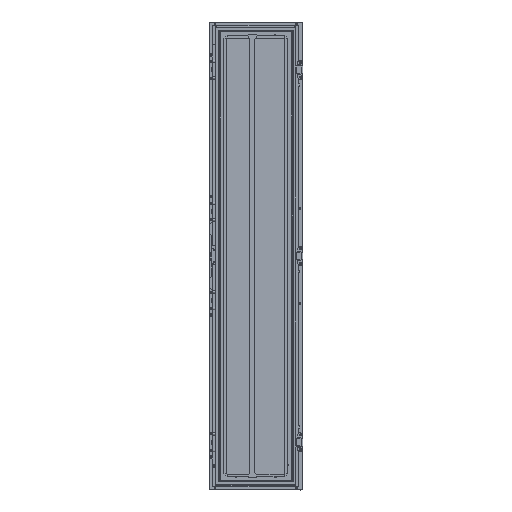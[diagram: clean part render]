
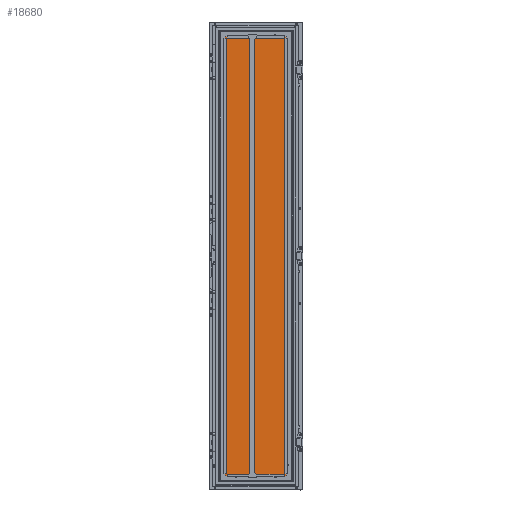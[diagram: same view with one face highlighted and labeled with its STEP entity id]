
A CAD part, top view. The second image highlights one B-rep face of the part: STEP entity #18680.
In plain terms, the highlighted planar face has unit normal (0, 0, 1).
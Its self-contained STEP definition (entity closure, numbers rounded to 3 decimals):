
#6264=DIRECTION('',(0.,1.,0.));
#6265=VECTOR('',#6264,6.304);
#6266=CARTESIAN_POINT('',(75.25,1909.69,1.25));
#6267=LINE('',#6266,#6265);
#6272=CARTESIAN_POINT('',(317.35,1909.672,1.25));
#6299=DIRECTION('',(0.,-1.,0.));
#6300=VECTOR('',#6299,6.296);
#6301=CARTESIAN_POINT('',(317.35,1915.968,1.25));
#6302=LINE('',#6301,#6300);
#6311=DIRECTION('',(-1.,0.,0.));
#6312=VECTOR('',#6311,242.1);
#6313=CARTESIAN_POINT('',(317.35,1909.672,1.25));
#6314=LINE('',#6313,#6312);
#6403=DIRECTION('',(0.,-1.,0.));
#6404=VECTOR('',#6403,1832.);
#6405=CARTESIAN_POINT('',(192.3,1904.2,1.25));
#6406=LINE('',#6405,#6404);
#6411=DIRECTION('',(-1.,0.,0.));
#6412=VECTOR('',#6411,20.);
#6413=CARTESIAN_POINT('',(192.3,72.2,1.25));
#6414=LINE('',#6413,#6412);
#6439=DIRECTION('',(1.,0.,0.));
#6440=VECTOR('',#6439,242.1);
#6441=CARTESIAN_POINT('',(75.25,65.994,1.25));
#6442=LINE('',#6441,#6440);
#6475=DIRECTION('',(0.,1.,0.));
#6476=VECTOR('',#6475,1832.);
#6477=CARTESIAN_POINT('',(172.3,72.2,1.25));
#6478=LINE('',#6477,#6476);
#6483=DIRECTION('',(1.,0.,0.));
#6484=VECTOR('',#6483,20.);
#6485=CARTESIAN_POINT('',(172.3,1904.2,1.25));
#6486=LINE('',#6485,#6484);
#6487=DIRECTION('',(-1.,0.,0.));
#6488=VECTOR('',#6487,8.3);
#6489=CARTESIAN_POINT('',(75.25,1915.994,1.25));
#6490=LINE('',#6489,#6488);
#6495=DIRECTION('',(0.,-1.,0.));
#6496=VECTOR('',#6495,7.3);
#6497=CARTESIAN_POINT('',(66.95,1915.994,1.25));
#6498=LINE('',#6497,#6496);
#6507=DIRECTION('',(1.,0.,0.));
#6508=VECTOR('',#6507,6.3);
#6509=CARTESIAN_POINT('',(66.95,1908.694,1.25));
#6510=LINE('',#6509,#6508);
#6561=DIRECTION('',(-1.,0.,0.));
#6562=VECTOR('',#6561,6.3);
#6563=CARTESIAN_POINT('',(73.25,66.994,1.25));
#6564=LINE('',#6563,#6562);
#6581=DIRECTION('',(0.,-1.,0.));
#6582=VECTOR('',#6581,1841.7);
#6583=CARTESIAN_POINT('',(73.25,1908.694,1.25));
#6584=LINE('',#6583,#6582);
#6585=DIRECTION('',(0.,-1.,0.));
#6586=VECTOR('',#6585,7.3);
#6587=CARTESIAN_POINT('',(66.95,66.994,1.25));
#6588=LINE('',#6587,#6586);
#6593=DIRECTION('',(1.,0.,0.));
#6594=VECTOR('',#6593,8.3);
#6595=CARTESIAN_POINT('',(66.95,59.694,1.25));
#6596=LINE('',#6595,#6594);
#6609=DIRECTION('',(0.,1.,0.));
#6610=VECTOR('',#6609,6.301);
#6611=CARTESIAN_POINT('',(75.25,59.694,1.25));
#6612=LINE('',#6611,#6610);
#6745=DIRECTION('',(0.,-1.,0.));
#6746=VECTOR('',#6745,6.319);
#6747=CARTESIAN_POINT('',(317.35,65.994,1.25));
#6748=LINE('',#6747,#6746);
#6765=DIRECTION('',(1.,-0.009,0.));
#6766=VECTOR('',#6765,8.3);
#6767=CARTESIAN_POINT('',(317.35,59.676,1.25));
#6768=LINE('',#6767,#6766);
#6773=DIRECTION('',(0.,1.,0.));
#6774=VECTOR('',#6773,7.296);
#6775=CARTESIAN_POINT('',(325.65,59.604,1.25));
#6776=LINE('',#6775,#6774);
#6785=DIRECTION('',(-1.,0.009,0.));
#6786=VECTOR('',#6785,6.3);
#6787=CARTESIAN_POINT('',(325.65,66.9,1.25));
#6788=LINE('',#6787,#6786);
#6827=DIRECTION('',(0.,1.,0.));
#6828=VECTOR('',#6827,1841.713);
#6829=CARTESIAN_POINT('',(319.35,66.954,1.25));
#6830=LINE('',#6829,#6828);
#6838=DIRECTION('',(1.,0.,0.));
#6839=VECTOR('',#6838,6.3);
#6840=CARTESIAN_POINT('',(319.35,1908.668,1.25));
#6841=LINE('',#6840,#6839);
#6870=DIRECTION('',(0.,1.,0.));
#6871=VECTOR('',#6870,7.3);
#6872=CARTESIAN_POINT('',(325.65,1908.667,1.25));
#6873=LINE('',#6872,#6871);
#6878=DIRECTION('',(-1.,0.,0.));
#6879=VECTOR('',#6878,8.3);
#6880=CARTESIAN_POINT('',(325.65,1915.967,1.25));
#6881=LINE('',#6880,#6879);
#9590=CARTESIAN_POINT('',(75.25,1909.69,1.25));
#9591=VERTEX_POINT('',#9590);
#9592=CARTESIAN_POINT('',(75.25,1915.994,1.25));
#9593=VERTEX_POINT('',#9592);
#9596=VERTEX_POINT('',#6272);
#9602=CARTESIAN_POINT('',(317.35,1915.968,1.25));
#9603=VERTEX_POINT('',#9602);
#9641=CARTESIAN_POINT('',(192.3,72.2,1.25));
#9643=VERTEX_POINT('',#9641);
#9646=CARTESIAN_POINT('',(192.3,1904.2,1.25));
#9647=VERTEX_POINT('',#9646);
#9650=CARTESIAN_POINT('',(172.3,72.2,1.25));
#9651=VERTEX_POINT('',#9650);
#9662=CARTESIAN_POINT('',(75.25,65.994,1.25));
#9663=VERTEX_POINT('',#9662);
#9664=CARTESIAN_POINT('',(317.35,65.994,1.25));
#9665=VERTEX_POINT('',#9664);
#9680=CARTESIAN_POINT('',(172.3,1904.2,1.25));
#9681=VERTEX_POINT('',#9680);
#9684=CARTESIAN_POINT('',(66.95,1915.994,1.25));
#9685=VERTEX_POINT('',#9684);
#9686=CARTESIAN_POINT('',(325.65,1915.967,1.25));
#9687=VERTEX_POINT('',#9686);
#9688=CARTESIAN_POINT('',(325.65,1908.667,1.25));
#9689=VERTEX_POINT('',#9688);
#9690=CARTESIAN_POINT('',(319.35,1908.668,1.25));
#9691=VERTEX_POINT('',#9690);
#9692=CARTESIAN_POINT('',(319.35,66.954,1.25));
#9693=VERTEX_POINT('',#9692);
#9694=CARTESIAN_POINT('',(325.65,66.9,1.25));
#9695=VERTEX_POINT('',#9694);
#9696=CARTESIAN_POINT('',(325.65,59.604,1.25));
#9697=VERTEX_POINT('',#9696);
#9698=CARTESIAN_POINT('',(317.35,59.676,1.25));
#9699=VERTEX_POINT('',#9698);
#9700=CARTESIAN_POINT('',(75.25,59.694,1.25));
#9701=VERTEX_POINT('',#9700);
#9702=CARTESIAN_POINT('',(66.95,59.694,1.25));
#9703=VERTEX_POINT('',#9702);
#9704=CARTESIAN_POINT('',(66.95,66.994,1.25));
#9705=VERTEX_POINT('',#9704);
#9706=CARTESIAN_POINT('',(73.25,66.994,1.25));
#9707=VERTEX_POINT('',#9706);
#9708=CARTESIAN_POINT('',(73.25,1908.694,1.25));
#9709=VERTEX_POINT('',#9708);
#9710=CARTESIAN_POINT('',(66.95,1908.694,1.25));
#9711=VERTEX_POINT('',#9710);
#18631=CARTESIAN_POINT('',(0.,1977.,1.25));
#18632=DIRECTION('',(0.,0.,-1.));
#18633=DIRECTION('',(1.,0.,0.));
#18634=AXIS2_PLACEMENT_3D('',#18631,#18632,#18633);
#18635=PLANE('',#18634);
#18637=ORIENTED_EDGE('',*,*,#18636,.F.);
#18638=ORIENTED_EDGE('',*,*,#18277,.F.);
#18639=ORIENTED_EDGE('',*,*,#18330,.F.);
#18640=ORIENTED_EDGE('',*,*,#18315,.F.);
#18642=ORIENTED_EDGE('',*,*,#18641,.F.);
#18644=ORIENTED_EDGE('',*,*,#18643,.F.);
#18646=ORIENTED_EDGE('',*,*,#18645,.F.);
#18648=ORIENTED_EDGE('',*,*,#18647,.F.);
#18650=ORIENTED_EDGE('',*,*,#18649,.F.);
#18652=ORIENTED_EDGE('',*,*,#18651,.F.);
#18654=ORIENTED_EDGE('',*,*,#18653,.F.);
#18656=ORIENTED_EDGE('',*,*,#18655,.F.);
#18657=ORIENTED_EDGE('',*,*,#18544,.F.);
#18659=ORIENTED_EDGE('',*,*,#18658,.F.);
#18661=ORIENTED_EDGE('',*,*,#18660,.F.);
#18663=ORIENTED_EDGE('',*,*,#18662,.F.);
#18665=ORIENTED_EDGE('',*,*,#18664,.F.);
#18667=ORIENTED_EDGE('',*,*,#18666,.F.);
#18669=ORIENTED_EDGE('',*,*,#18668,.F.);
#18671=ORIENTED_EDGE('',*,*,#18670,.F.);
#18672=EDGE_LOOP('',(#18637,#18638,#18639,#18640,#18642,#18644,#18646,#18648,
#18650,#18652,#18654,#18656,#18657,#18659,#18661,#18663,#18665,#18667,#18669,
#18671));
#18673=FACE_OUTER_BOUND('',#18672,.F.);
#18674=ORIENTED_EDGE('',*,*,#18495,.F.);
#18675=ORIENTED_EDGE('',*,*,#18625,.F.);
#18676=ORIENTED_EDGE('',*,*,#18613,.F.);
#18677=ORIENTED_EDGE('',*,*,#18508,.F.);
#18678=EDGE_LOOP('',(#18674,#18675,#18676,#18677));
#18679=FACE_BOUND('',#18678,.F.);
#18277=EDGE_CURVE('',#9591,#9593,#6267,.T.);
#18315=EDGE_CURVE('',#9603,#9596,#6302,.T.);
#18330=EDGE_CURVE('',#9596,#9591,#6314,.T.);
#18495=EDGE_CURVE('',#9647,#9643,#6406,.T.);
#18508=EDGE_CURVE('',#9643,#9651,#6414,.T.);
#18544=EDGE_CURVE('',#9663,#9665,#6442,.T.);
#18613=EDGE_CURVE('',#9651,#9681,#6478,.T.);
#18625=EDGE_CURVE('',#9681,#9647,#6486,.T.);
#18636=EDGE_CURVE('',#9593,#9685,#6490,.T.);
#18641=EDGE_CURVE('',#9687,#9603,#6881,.T.);
#18643=EDGE_CURVE('',#9689,#9687,#6873,.T.);
#18645=EDGE_CURVE('',#9691,#9689,#6841,.T.);
#18647=EDGE_CURVE('',#9693,#9691,#6830,.T.);
#18649=EDGE_CURVE('',#9695,#9693,#6788,.T.);
#18651=EDGE_CURVE('',#9697,#9695,#6776,.T.);
#18653=EDGE_CURVE('',#9699,#9697,#6768,.T.);
#18655=EDGE_CURVE('',#9665,#9699,#6748,.T.);
#18658=EDGE_CURVE('',#9701,#9663,#6612,.T.);
#18660=EDGE_CURVE('',#9703,#9701,#6596,.T.);
#18662=EDGE_CURVE('',#9705,#9703,#6588,.T.);
#18664=EDGE_CURVE('',#9707,#9705,#6564,.T.);
#18666=EDGE_CURVE('',#9709,#9707,#6584,.T.);
#18668=EDGE_CURVE('',#9711,#9709,#6510,.T.);
#18670=EDGE_CURVE('',#9685,#9711,#6498,.T.);
#18680=ADVANCED_FACE('',(#18673,#18679),#18635,.F.);
